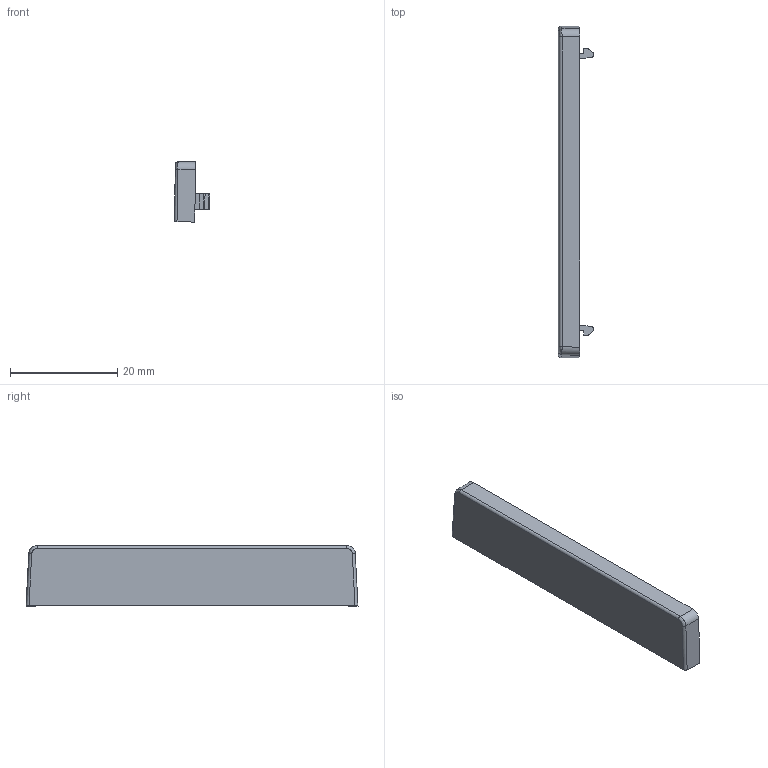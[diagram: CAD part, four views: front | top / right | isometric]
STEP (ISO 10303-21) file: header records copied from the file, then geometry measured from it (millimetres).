
FILE_DESCRIPTION(('Creo Elements/Direct Modeling STEP Export'),'2;1');
FILE_NAME('994_endcap_left_560377_spring_side.stp','2022-12-20T15:14:35',(''),(''),'Creo Elements/Direct Modeling STEP processor for AP214 (Solid Model)','Creo Elements/Direct Modeling 20.0C 26-Jan-2018 (C) Parametric Technology GmbH','');
FILE_SCHEMA(('AUTOMOTIVE_DESIGN { 1 0 10303 214 1 1 1 1 }'));
Length unit declared in the file: millimetre
Products named in the file (2): 994_endcap_left_560377_spring_side
Assembly tree (1 placements, depth 2):
  994_endcap_left_560377_spring_side
    994_endcap_left_560377_spring_side
Bounding box: 6.59 x 62 x 11.25 mm (x, y, z)
Volume: 1309.6 mm3; surface area: 2004.1 mm2
Topology: 1 solids, 1 shells, 55 faces, 142 edges, 90 vertices
Faces by surface type: plane 31, cylinder 20, bspline 2, sphere 2
Entity records: 1851 total; most frequent: CARTESIAN_POINT 473, ORIENTED_EDGE 280, DIRECTION 276, EDGE_CURVE 140, VECTOR 98, LINE 98, VERTEX_POINT 90, AXIS2_PLACEMENT_3D 89
